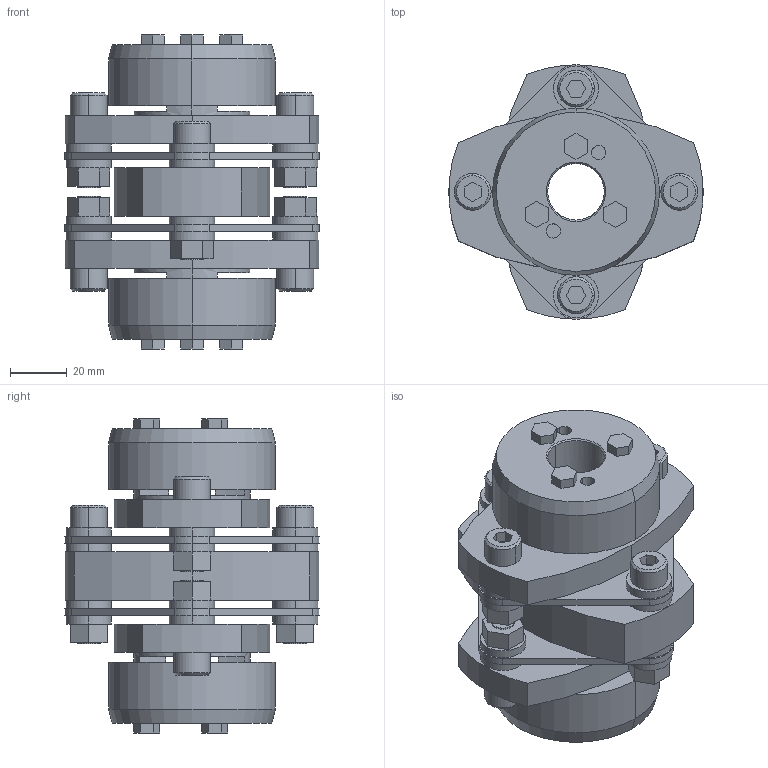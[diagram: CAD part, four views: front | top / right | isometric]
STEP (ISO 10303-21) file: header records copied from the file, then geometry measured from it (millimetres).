
FILE_DESCRIPTION((''),'2;1');
FILE_NAME('LCD-90T7-20×22.stp','2011-09-09T10:32:02',(''),(''),'AutoCAD STEP 2000i','AutoCAD 2000i',', , ');
FILE_SCHEMA(('CONFIG_CONTROL_DESIGN'));
Length unit declared in the file: millimetre
Products named in the file (5): LCD-90T7-19×19; 忣兜1; LC90T7-T019-1; LC90T7-T019; LCD90-ITA
Assembly tree (4 placements, depth 2):
  LCD-90T7-19×19
    忣兜1
    LC90T7-T019-1
    LC90T7-T019
    LCD90-ITA
Bounding box: 90 x 89.94 x 111 mm (x, y, z)
Volume: 274652.6 mm3; surface area: 73906 mm2
Topology: 1 solids, 1 shells, 323 faces, 792 edges, 518 vertices
Faces by surface type: plane 179, cylinder 120, cone 24
Entity records: 9755 total; most frequent: DIRECTION 1734, CARTESIAN_POINT 1638, ORIENTED_EDGE 1584, EDGE_CURVE 792, AXIS2_PLACEMENT_3D 614, VERTEX_POINT 518, VECTOR 506, LINE 506
